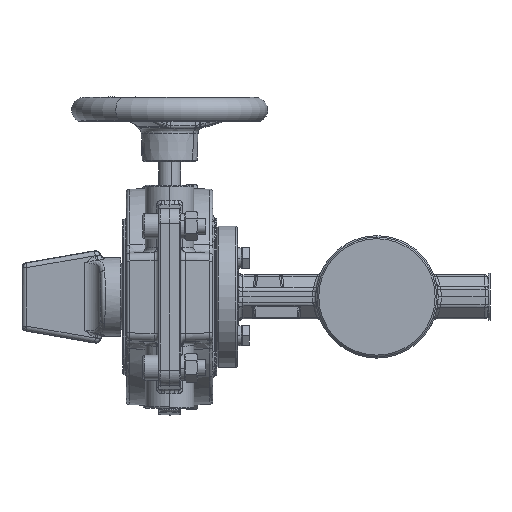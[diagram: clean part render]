
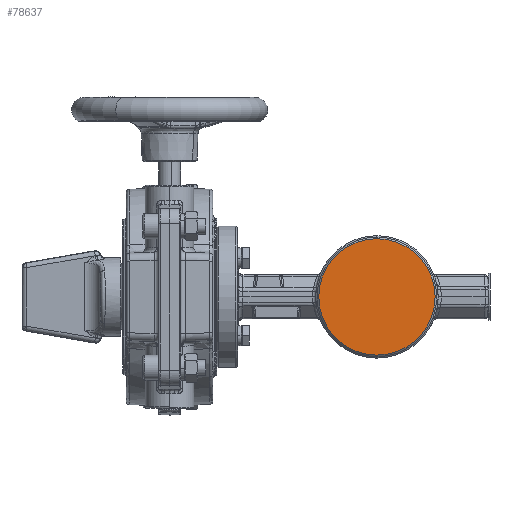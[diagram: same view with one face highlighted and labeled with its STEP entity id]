
A CAD part, left-side view. The second image highlights one B-rep face of the part: STEP entity #78637.
In plain terms, the highlighted planar face has unit normal (-1, 0, 0).
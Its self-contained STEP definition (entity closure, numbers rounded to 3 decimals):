
#2709 = VERTEX_POINT ( 'NONE', #155755 ) ;
#3399 = ORIENTED_EDGE ( 'NONE', *, *, #19830, .T. ) ;
#6028 = AXIS2_PLACEMENT_3D ( 'NONE', #154268, #76475, #102500 ) ;
#8141 = DIRECTION ( 'NONE',  ( 0., 1., 0. ) ) ;
#10754 = EDGE_CURVE ( 'NONE', #92989, #2709, #136299, .T. ) ;
#19830 = EDGE_CURVE ( 'NONE', #2709, #92989, #111678, .T. ) ;
#21399 = CARTESIAN_POINT ( 'NONE',  ( -48.5, 0., 0. ) ) ;
#35207 = DIRECTION ( 'NONE',  ( 1., 0., 0. ) ) ;
#73239 = DIRECTION ( 'NONE',  ( 0., 0., -1. ) ) ;
#74118 = AXIS2_PLACEMENT_3D ( 'NONE', #21399, #109700, #73239 ) ;
#76475 = DIRECTION ( 'NONE',  ( -1., 0., 0. ) ) ;
#78637 = ADVANCED_FACE ( 'NONE', ( #114876 ), #135591, .F. ) ;
#91992 = EDGE_LOOP ( 'NONE', ( #124750, #3399 ) ) ;
#92989 = VERTEX_POINT ( 'NONE', #97059 ) ;
#97059 = CARTESIAN_POINT ( 'NONE',  ( -48.5, 0., -37.05 ) ) ;
#102500 = DIRECTION ( 'NONE',  ( 0., 0., -1. ) ) ;
#109700 = DIRECTION ( 'NONE',  ( -1., 0., 0. ) ) ;
#110785 = CARTESIAN_POINT ( 'NONE',  ( -48.5, 39., 0. ) ) ;
#111678 = CIRCLE ( 'NONE', #6028, 37.05 ) ;
#114876 = FACE_OUTER_BOUND ( 'NONE', #91992, .T. ) ;
#124750 = ORIENTED_EDGE ( 'NONE', *, *, #10754, .T. ) ;
#135591 = PLANE ( 'NONE',  #150315 ) ;
#136299 = CIRCLE ( 'NONE', #74118, 37.05 ) ;
#150315 = AXIS2_PLACEMENT_3D ( 'NONE', #110785, #35207, #8141 ) ;
#154268 = CARTESIAN_POINT ( 'NONE',  ( -48.5, 0., 0. ) ) ;
#155755 = CARTESIAN_POINT ( 'NONE',  ( -48.5, 0., 37.05 ) ) ;
